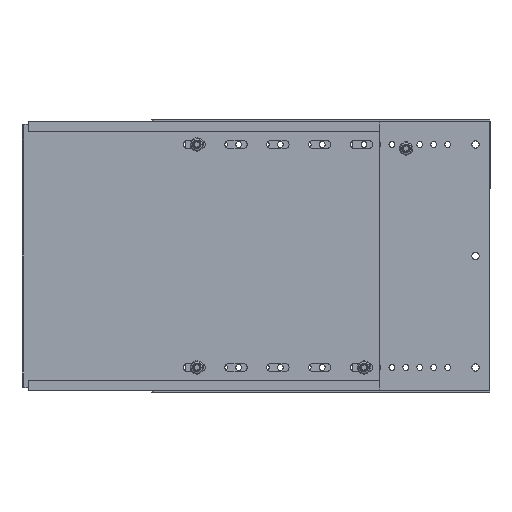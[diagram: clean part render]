
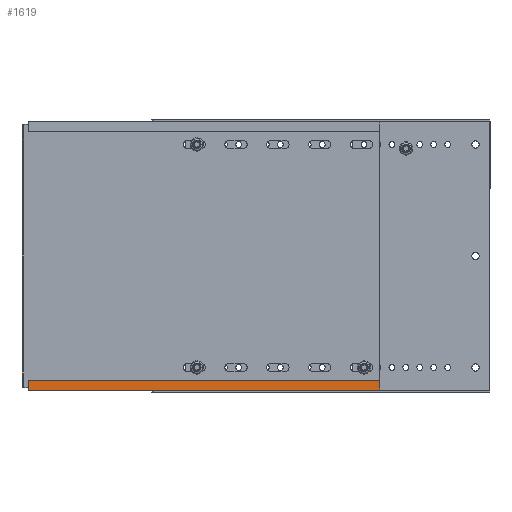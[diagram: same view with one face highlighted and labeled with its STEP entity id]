
A CAD part, front view. The second image highlights one B-rep face of the part: STEP entity #1619.
In plain terms, the highlighted planar face has unit normal (0, -1, 0).
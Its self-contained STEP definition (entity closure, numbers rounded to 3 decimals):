
#23 = LINE ( 'NONE', #1204, #7814 ) ;
#39 = ORIENTED_EDGE ( 'NONE', *, *, #3013, .F. ) ;
#787 = VERTEX_POINT ( 'NONE', #7331 ) ;
#1023 = CARTESIAN_POINT ( 'NONE',  ( -413.75, -1.6, -120.25 ) ) ;
#1029 = DIRECTION ( 'NONE',  ( 0., 0., 1. ) ) ;
#1204 = CARTESIAN_POINT ( 'NONE',  ( -422.845, -1.6, -120.25 ) ) ;
#1328 = CARTESIAN_POINT ( 'NONE',  ( -256.25, -1.6, -115.2 ) ) ;
#1619 = ADVANCED_FACE ( 'NONE', ( #4648 ), #5850, .T. ) ;
#1690 = CARTESIAN_POINT ( 'NONE',  ( -413.75, -1.6, -111.7 ) ) ;
#1730 = EDGE_LOOP ( 'NONE', ( #39, #5379, #4143, #4667 ) ) ;
#1888 = VERTEX_POINT ( 'NONE', #1690 ) ;
#2796 = VERTEX_POINT ( 'NONE', #5917 ) ;
#2995 = LINE ( 'NONE', #7997, #7538 ) ;
#3013 = EDGE_CURVE ( 'NONE', #1888, #2796, #4696, .T. ) ;
#3143 = EDGE_CURVE ( 'NONE', #5520, #787, #23, .T. ) ;
#3251 = EDGE_CURVE ( 'NONE', #5520, #1888, #2995, .T. ) ;
#3823 = DIRECTION ( 'NONE',  ( 1., 0., 0. ) ) ;
#4077 = VECTOR ( 'NONE', #6256, 1000. ) ;
#4143 = ORIENTED_EDGE ( 'NONE', *, *, #3143, .T. ) ;
#4648 = FACE_OUTER_BOUND ( 'NONE', #1730, .T. ) ;
#4667 = ORIENTED_EDGE ( 'NONE', *, *, #5821, .F. ) ;
#4696 = LINE ( 'NONE', #5902, #6617 ) ;
#4842 = AXIS2_PLACEMENT_3D ( 'NONE', #1328, #6548, #7170 ) ;
#5379 = ORIENTED_EDGE ( 'NONE', *, *, #3251, .F. ) ;
#5520 = VERTEX_POINT ( 'NONE', #1023 ) ;
#5635 = LINE ( 'NONE', #6298, #4077 ) ;
#5821 = EDGE_CURVE ( 'NONE', #2796, #787, #5635, .T. ) ;
#5850 = PLANE ( 'NONE',  #4842 ) ;
#5902 = CARTESIAN_POINT ( 'NONE',  ( -256.25, -1.6, -111.7 ) ) ;
#5917 = CARTESIAN_POINT ( 'NONE',  ( -98.75, -1.6, -111.7 ) ) ;
#6256 = DIRECTION ( 'NONE',  ( 0., 0., -1. ) ) ;
#6298 = CARTESIAN_POINT ( 'NONE',  ( -98.75, -1.6, -115.2 ) ) ;
#6548 = DIRECTION ( 'NONE',  ( 0., -1., 0. ) ) ;
#6617 = VECTOR ( 'NONE', #7815, 1000. ) ;
#7170 = DIRECTION ( 'NONE',  ( 0., 0., -1. ) ) ;
#7331 = CARTESIAN_POINT ( 'NONE',  ( -98.75, -1.6, -120.25 ) ) ;
#7538 = VECTOR ( 'NONE', #1029, 1000. ) ;
#7814 = VECTOR ( 'NONE', #3823, 1000. ) ;
#7815 = DIRECTION ( 'NONE',  ( 1., 0., 0. ) ) ;
#7997 = CARTESIAN_POINT ( 'NONE',  ( -413.75, -1.6, -115.2 ) ) ;
